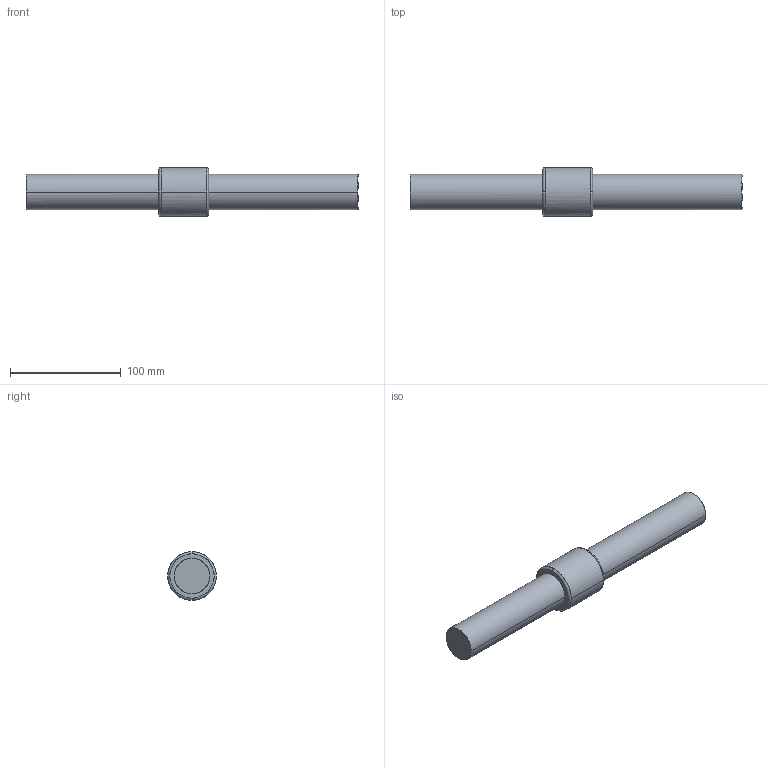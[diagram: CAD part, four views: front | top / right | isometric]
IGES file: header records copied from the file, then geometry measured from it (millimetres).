
Global section: file name: No Iges File Name specified; native system: AutoDesk Inventor R10; preprocessor: AutoDesk Inventor Iges Exporter R10; author: No Author specified; organization: No Organization specified; date: 20101224.154821; units: millimetre
Bounding box: 300 x 44 x 44 mm (x, y, z)
Surface area: 43703.7 mm2 (no closed solid volume)
Topology: 0 solids, 0 shells, 14 faces, 84 edges, 84 vertices
Faces by surface type: bspline 14
